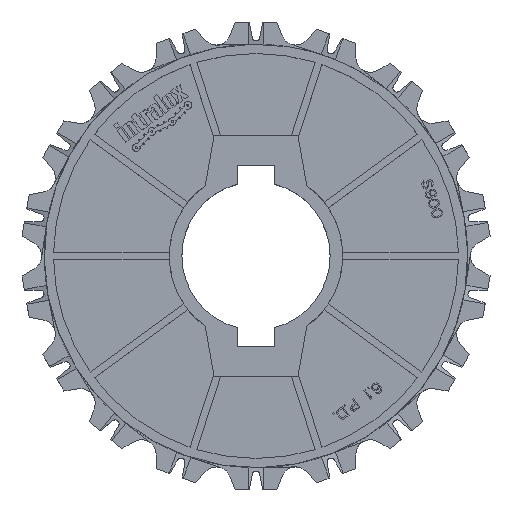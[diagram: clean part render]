
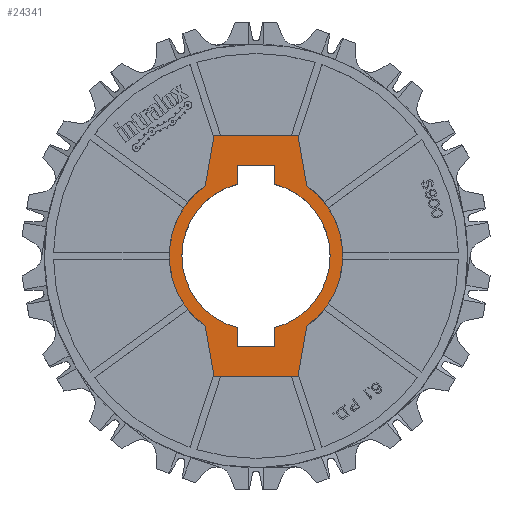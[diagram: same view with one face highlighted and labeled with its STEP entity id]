
A CAD part, top view. The second image highlights one B-rep face of the part: STEP entity #24341.
In plain terms, the highlighted planar face has unit normal (0, 0, 1).
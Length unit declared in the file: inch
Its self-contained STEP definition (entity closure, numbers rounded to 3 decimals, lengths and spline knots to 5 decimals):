
#7314=DIRECTION('',(-0.174,-0.985,0.));
#7315=VECTOR('',#7314,0.68632);
#7316=CARTESIAN_POINT('',(-0.565,1.625,0.74));
#7317=LINE('',#7316,#7315);
#7318=DIRECTION('',(-1.,0.,0.));
#7319=VECTOR('',#7318,1.13);
#7320=CARTESIAN_POINT('',(0.565,1.625,0.74));
#7321=LINE('',#7320,#7319);
#7322=DIRECTION('',(-0.174,0.985,0.));
#7323=VECTOR('',#7322,0.68632);
#7324=CARTESIAN_POINT('',(0.68418,0.9491,0.74));
#7325=LINE('',#7324,#7323);
#7326=CARTESIAN_POINT('',(0.,0.,0.74));
#7327=DIRECTION('',(0.,0.,1.));
#7328=DIRECTION('',(0.585,-0.811,0.));
#7329=AXIS2_PLACEMENT_3D('',#7326,#7327,#7328);
#7331=DIRECTION('',(0.174,0.985,0.));
#7332=VECTOR('',#7331,0.68632);
#7333=CARTESIAN_POINT('',(0.565,-1.625,0.74));
#7334=LINE('',#7333,#7332);
#7335=DIRECTION('',(1.,0.,0.));
#7336=VECTOR('',#7335,1.13);
#7337=CARTESIAN_POINT('',(-0.565,-1.625,0.74));
#7338=LINE('',#7337,#7336);
#7339=DIRECTION('',(0.174,-0.985,0.));
#7340=VECTOR('',#7339,0.68632);
#7341=CARTESIAN_POINT('',(-0.68418,-0.9491,0.74));
#7342=LINE('',#7341,#7340);
#7343=CARTESIAN_POINT('',(0.,0.,0.74));
#7344=DIRECTION('',(0.,0.,1.));
#7345=DIRECTION('',(-0.585,0.811,0.));
#7346=AXIS2_PLACEMENT_3D('',#7343,#7344,#7345);
#7348=DIRECTION('',(0.,-1.,0.));
#7349=VECTOR('',#7348,0.25);
#7350=CARTESIAN_POINT('',(-0.25,1.21825,0.74));
#7351=LINE('',#7350,#7349);
#7352=CARTESIAN_POINT('',(0.,0.,0.74));
#7353=DIRECTION('',(0.,0.,1.));
#7354=DIRECTION('',(-0.25,0.968,0.));
#7355=AXIS2_PLACEMENT_3D('',#7352,#7353,#7354);
#7357=DIRECTION('',(0.,-1.,0.));
#7358=VECTOR('',#7357,0.25);
#7359=CARTESIAN_POINT('',(-0.25,-0.96825,0.74));
#7360=LINE('',#7359,#7358);
#7361=DIRECTION('',(1.,0.,0.));
#7362=VECTOR('',#7361,0.5);
#7363=CARTESIAN_POINT('',(-0.25,-1.21825,0.74));
#7364=LINE('',#7363,#7362);
#7365=DIRECTION('',(0.,1.,0.));
#7366=VECTOR('',#7365,0.25);
#7367=CARTESIAN_POINT('',(0.25,-1.21825,0.74));
#7368=LINE('',#7367,#7366);
#7369=CARTESIAN_POINT('',(0.,0.,0.74));
#7370=DIRECTION('',(0.,0.,1.));
#7371=DIRECTION('',(0.25,-0.968,0.));
#7372=AXIS2_PLACEMENT_3D('',#7369,#7370,#7371);
#7374=DIRECTION('',(0.,1.,0.));
#7375=VECTOR('',#7374,0.25);
#7376=CARTESIAN_POINT('',(0.25,0.96825,0.74));
#7377=LINE('',#7376,#7375);
#7378=DIRECTION('',(-1.,0.,0.));
#7379=VECTOR('',#7378,0.5);
#7380=CARTESIAN_POINT('',(0.25,1.21825,0.74));
#7381=LINE('',#7380,#7379);
#15558=CARTESIAN_POINT('',(-0.68418,0.9491,0.74));
#15559=CARTESIAN_POINT('',(-0.68418,-0.9491,0.74));
#15560=VERTEX_POINT('',#15558);
#15561=VERTEX_POINT('',#15559);
#15562=CARTESIAN_POINT('',(-0.565,-1.625,0.74));
#15563=CARTESIAN_POINT('',(0.565,-1.625,0.74));
#15564=VERTEX_POINT('',#15562);
#15565=VERTEX_POINT('',#15563);
#15566=CARTESIAN_POINT('',(0.68418,-0.9491,0.74));
#15567=CARTESIAN_POINT('',(0.68418,0.9491,0.74));
#15568=VERTEX_POINT('',#15566);
#15569=VERTEX_POINT('',#15567);
#15570=CARTESIAN_POINT('',(0.565,1.625,0.74));
#15571=CARTESIAN_POINT('',(-0.565,1.625,0.74));
#15572=VERTEX_POINT('',#15570);
#15573=VERTEX_POINT('',#15571);
#15934=CARTESIAN_POINT('',(-0.25,1.21825,0.74));
#15935=CARTESIAN_POINT('',(-0.25,0.96825,0.74));
#15936=VERTEX_POINT('',#15934);
#15937=VERTEX_POINT('',#15935);
#15938=CARTESIAN_POINT('',(-0.25,-0.96825,0.74));
#15939=VERTEX_POINT('',#15938);
#15940=CARTESIAN_POINT('',(-0.25,-1.21825,0.74));
#15941=VERTEX_POINT('',#15940);
#15942=CARTESIAN_POINT('',(0.25,-1.21825,0.74));
#15943=VERTEX_POINT('',#15942);
#15944=CARTESIAN_POINT('',(0.25,-0.96825,0.74));
#15945=VERTEX_POINT('',#15944);
#15946=CARTESIAN_POINT('',(0.25,0.96825,0.74));
#15947=VERTEX_POINT('',#15946);
#15948=CARTESIAN_POINT('',(0.25,1.21825,0.74));
#15949=VERTEX_POINT('',#15948);
#24316=CARTESIAN_POINT('',(0.,0.,0.74));
#24317=DIRECTION('',(0.,0.,1.));
#24318=DIRECTION('',(1.,0.,0.));
#24319=AXIS2_PLACEMENT_3D('',#24316,#24317,#24318);
#24320=PLANE('',#24319);
#24321=ORIENTED_EDGE('',*,*,#22107,.F.);
#24322=ORIENTED_EDGE('',*,*,#21684,.F.);
#24323=ORIENTED_EDGE('',*,*,#24164,.F.);
#24324=ORIENTED_EDGE('',*,*,#23888,.F.);
#24325=ORIENTED_EDGE('',*,*,#23760,.F.);
#24326=ORIENTED_EDGE('',*,*,#23647,.F.);
#24327=ORIENTED_EDGE('',*,*,#23613,.F.);
#24328=ORIENTED_EDGE('',*,*,#21843,.F.);
#24329=EDGE_LOOP('',(#24321,#24322,#24323,#24324,#24325,#24326,#24327,#24328));
#24330=FACE_OUTER_BOUND('',#24329,.F.);
#24331=ORIENTED_EDGE('',*,*,#24212,.T.);
#24332=ORIENTED_EDGE('',*,*,#24227,.T.);
#24333=ORIENTED_EDGE('',*,*,#24241,.T.);
#24334=ORIENTED_EDGE('',*,*,#24255,.T.);
#24335=ORIENTED_EDGE('',*,*,#24269,.T.);
#24336=ORIENTED_EDGE('',*,*,#24283,.T.);
#24337=ORIENTED_EDGE('',*,*,#24297,.T.);
#24338=ORIENTED_EDGE('',*,*,#24310,.T.);
#24339=EDGE_LOOP('',(#24331,#24332,#24333,#24334,#24335,#24336,#24337,#24338));
#24340=FACE_BOUND('',#24339,.F.);
#24341=ADVANCED_FACE('',(#24330,#24340),#24320,.T.);
#7330=CIRCLE('',#7329,1.17);
#7347=CIRCLE('',#7346,1.17);
#7356=CIRCLE('',#7355,1.);
#7373=CIRCLE('',#7372,1.);
#21684=EDGE_CURVE('',#15572,#15573,#7321,.T.);
#21843=EDGE_CURVE('',#15560,#15561,#7347,.T.);
#22107=EDGE_CURVE('',#15573,#15560,#7317,.T.);
#23613=EDGE_CURVE('',#15561,#15564,#7342,.T.);
#23647=EDGE_CURVE('',#15564,#15565,#7338,.T.);
#23760=EDGE_CURVE('',#15565,#15568,#7334,.T.);
#23888=EDGE_CURVE('',#15568,#15569,#7330,.T.);
#24164=EDGE_CURVE('',#15569,#15572,#7325,.T.);
#24212=EDGE_CURVE('',#15936,#15937,#7351,.T.);
#24227=EDGE_CURVE('',#15937,#15939,#7356,.T.);
#24241=EDGE_CURVE('',#15939,#15941,#7360,.T.);
#24255=EDGE_CURVE('',#15941,#15943,#7364,.T.);
#24269=EDGE_CURVE('',#15943,#15945,#7368,.T.);
#24283=EDGE_CURVE('',#15945,#15947,#7373,.T.);
#24297=EDGE_CURVE('',#15947,#15949,#7377,.T.);
#24310=EDGE_CURVE('',#15949,#15936,#7381,.T.);
